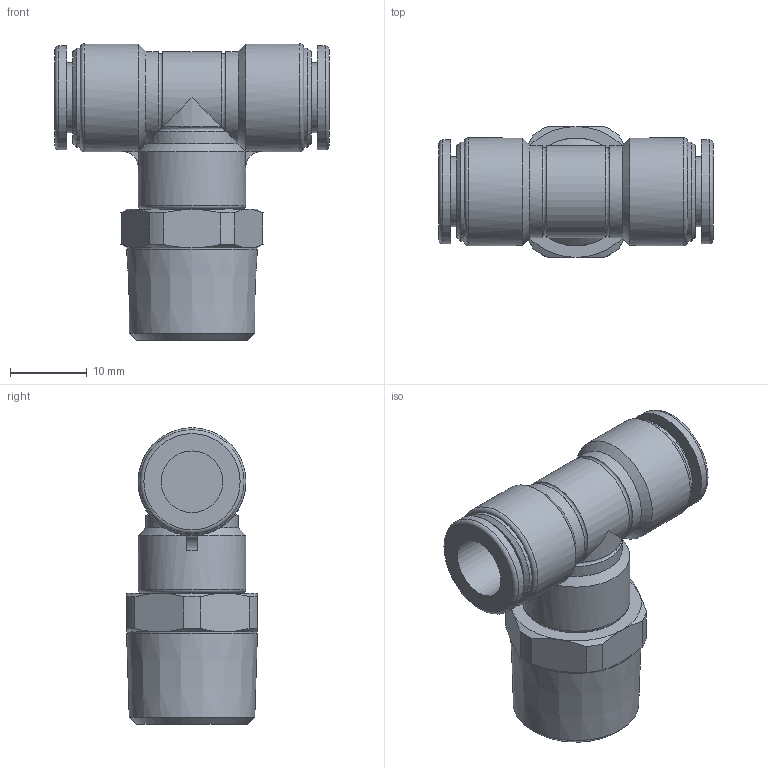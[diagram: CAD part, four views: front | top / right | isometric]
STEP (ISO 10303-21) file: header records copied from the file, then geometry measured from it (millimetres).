
FILE_DESCRIPTION(/* description */ (''),/* implementation_level */ '2;1');
FILE_NAME(/* name */ 'E:\2013年度版　3D-DATA\【02】 TOUCH CONNECTOR FIVE SUS\[03] MALE BRANCH TEE\[10] FS8-03MT FS8-03MTW.stp',/* time_stamp */ '2013-08-06T16:52:59+09:00',/* author */ ('takahashi-pc2'),/* organization */ (''),/* preprocessor_version */ 'ST-DEVELOPER v15.2',/* originating_system */ 'Autodesk Inventor 2014',/* authorisation */ '');
FILE_SCHEMA (('AUTOMOTIVE_DESIGN { 1 0 10303 214 3 1 1 }'));
Length unit declared in the file: millimetre
Products named in the file (1): [10] FS8-03MT FS8-03MTW
Bounding box: 35.6 x 17 x 38.5 mm (x, y, z)
Volume: 8527.1 mm3; surface area: 4292.3 mm2
Topology: 1 solids, 1 shells, 86 faces, 195 edges, 120 vertices
Faces by surface type: plane 30, cylinder 27, cone 20, torus 9
Full cylindrical faces by diameter (mm): 8 x2, 9.1 x2, 12.9 x2, 13.5 x2, 14 x3, 17 x1
Entity records: 2363 total; most frequent: CARTESIAN_POINT 539, DIRECTION 396, ORIENTED_EDGE 346, AXIS2_PLACEMENT_3D 176, EDGE_CURVE 173, VERTEX_POINT 119, EDGE_LOOP 116, ADVANCED_FACE 86
